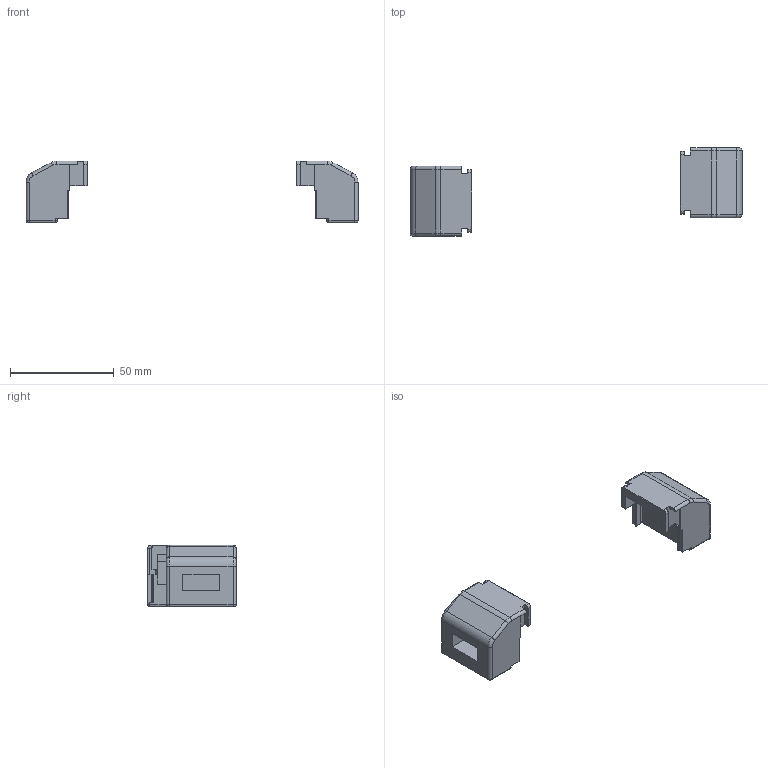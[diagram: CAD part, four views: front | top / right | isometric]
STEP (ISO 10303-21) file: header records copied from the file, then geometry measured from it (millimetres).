
FILE_DESCRIPTION((''),'2;1');
FILE_NAME('DEWI_SR-MINI_DMEC-ASSY_130','2015-12-16T',('emanuel.wild'),(''),'PRO/ENGINEER BY PARAMETRIC TECHNOLOGY CORPORATION, 2015200','PRO/ENGINEER BY PARAMETRIC TECHNOLOGY CORPORATION, 2015200','');
FILE_SCHEMA(('AUTOMOTIVE_DESIGN { 1 0 10303 214 1 1 1 1 }'));
Length unit declared in the file: millimetre
Products named in the file (2): DEWI_SR-MINI_DMEC; DEWI_SR-MINI_DMEC-ASSY_130
Assembly tree (2 placements, depth 2):
  DEWI_SR-MINI_DMEC-ASSY_130
    DEWI_SR-MINI_DMEC  x2
Bounding box: 160 x 42.6 x 29.8 mm (x, y, z)
Volume: 25339.5 mm3; surface area: 13623 mm2
Topology: 2 solids, 2 shells, 202 faces, 528 edges, 332 vertices
Faces by surface type: plane 120, cylinder 58, torus 16, bspline 4, sphere 4
Entity records: 3792 total; most frequent: CARTESIAN_POINT 570, DIRECTION 538, ORIENTED_EDGE 528, EDGE_CURVE 264, VECTOR 196, LINE 196, AXIS2_PLACEMENT_3D 171, VERTEX_POINT 166
